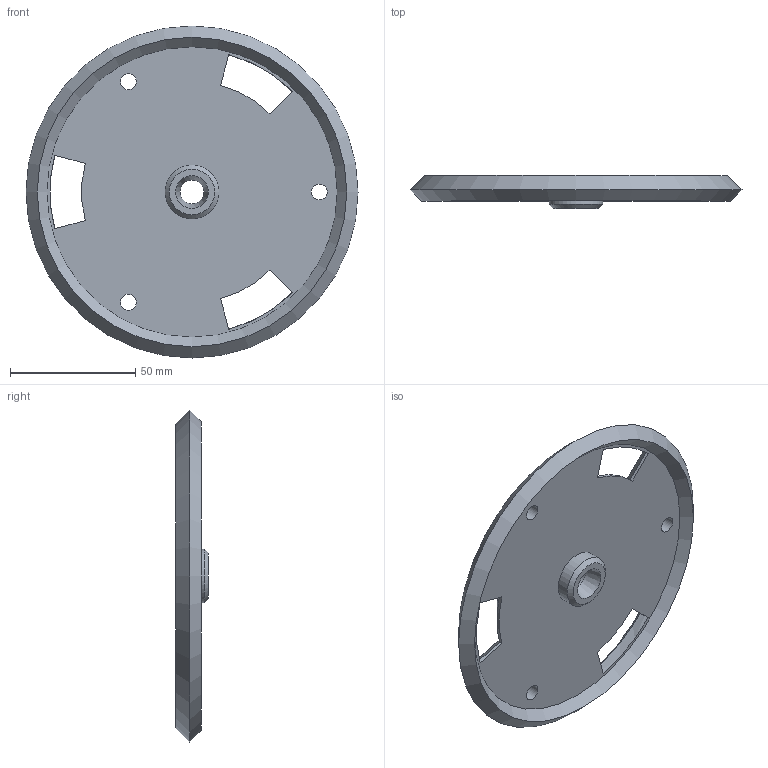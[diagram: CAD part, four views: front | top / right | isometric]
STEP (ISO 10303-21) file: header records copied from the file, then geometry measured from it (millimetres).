
FILE_DESCRIPTION(/* description */ ('STEP AP242 Edition 2','CAx-IF Rec.Pracs.---Representation and Presentation of Product Manufacturing Information (PMI)---4.0---2014-10-13','CAx-IF Rec.Pracs.---3D Tessellated Geometry---0.4---2014-09-14','2;1','CAx-IF Rec.Pracs.---User Defined Attributes---1.5---2016-08-15'),/* implementation_level */ '2;1');
FILE_NAME(/* name */ 'wheel - Mold Top',/* time_stamp */ '2026-05-29T17:26:38Z',/* author */ (''),/* organization */ (''),/* preprocessor_version */ 'ST-DEVELOPER v20',/* originating_system */ 'ONSHAPE BY PTC INC, 1.215',/* authorisation */ ' ');
FILE_SCHEMA (('AP242_MANAGED_MODEL_BASED_3D_ENGINEERING_MIM_LF { 1 0 10303 442 3 1 4 }'));
Length unit declared in the file: metre
Products named in the file (1): Mold Top
Bounding box: 132.58 x 13.1 x 132.58 mm (x, y, z)
Volume: 78607 mm3; surface area: 29752.2 mm2
Topology: 1 solids, 1 shells, 37 faces, 93 edges, 59 vertices
Faces by surface type: plane 15, cone 11, cylinder 11
Full cylindrical faces by diameter (mm): 6.35 x3, 9.525 x1, 21.488 x1
Entity records: 1118 total; most frequent: CARTESIAN_POINT 214, DIRECTION 186, ORIENTED_EDGE 164, EDGE_CURVE 82, AXIS2_PLACEMENT_3D 78, EDGE_LOOP 62, FACE_BOUND 62, VERTEX_POINT 58
